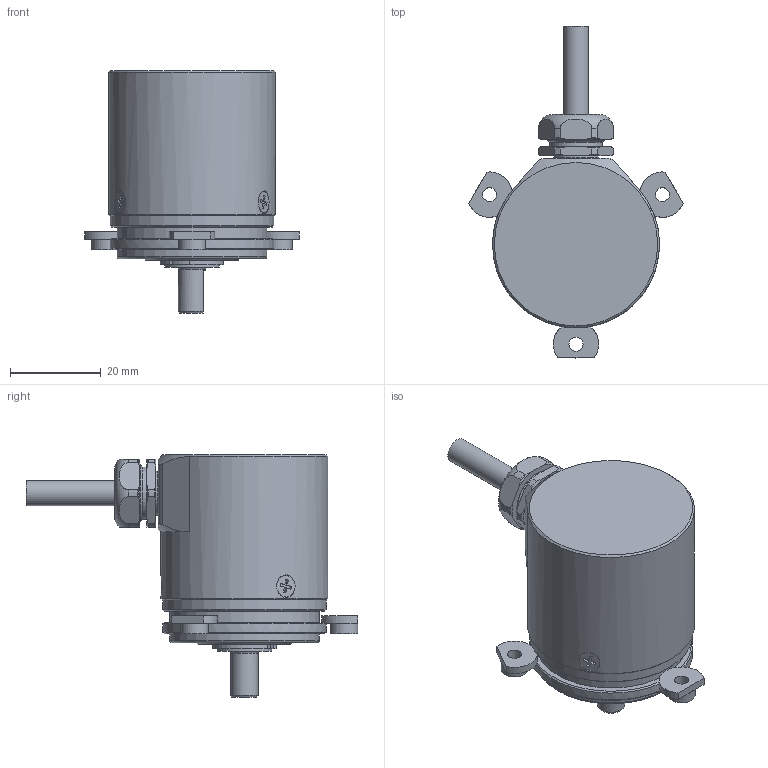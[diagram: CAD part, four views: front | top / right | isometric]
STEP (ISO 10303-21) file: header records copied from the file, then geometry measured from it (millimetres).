
FILE_DESCRIPTION(/* description */ ('Unknown'),/* implementation_level */ '2;1');
FILE_NAME(/* name */ 'EA_EAM_36B_PR',/* time_stamp */ '2019-06-26T12:36:58+02:00',/* author */ ('Unknown'),/* organization */ ('Unknown'),/* preprocessor_version */ 'ST-DEVELOPER v16.7',/* originating_system */ 'DEX',/* authorisation */ $);
FILE_SCHEMA (('AUTOMOTIVE_DESIGN {1 0 10303 214 3 1 1}'));
Length unit declared in the file: millimetre
Products named in the file (1): EA_EAM_36B_PR
Bounding box: 47.3 x 73.1 x 53.5 mm (x, y, z)
Volume: 24639.2 mm3; surface area: 18888.1 mm2
Topology: 1 solids, 11 shells, 383 faces, 966 edges, 633 vertices
Faces by surface type: plane 145, cylinder 120, cone 97, torus 21
Full cylindrical faces by diameter (mm): 1 x1, 1.221 x2, 1.45 x1, 1.6 x2, 2 x1, 2.013 x3, 2.459 x4, 2.5 x3, 2.7 x3, 3 x3, 3.1 x3, 5.5 x2, 6 x4, 7.5 x1, 7.7 x1, 8 x2, 10 x1, 11.5 x1, 11.8 x1, 11.89 x1, 12 x2, 12.5 x1, 14.5 x4, 18.5 x4, 19 x1, 21 x3, 21.1 x2, 31.3 x1, 33 x2, 33.6 x1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
Entity records: 13270 total; most frequent: CARTESIAN_POINT 2411, DIRECTION 1690, ORIENTED_EDGE 1488, EDGE_CURVE 744, AXIS2_PLACEMENT_3D 720, FACE_BOUND 589, EDGE_LOOP 579, VERTEX_POINT 559
